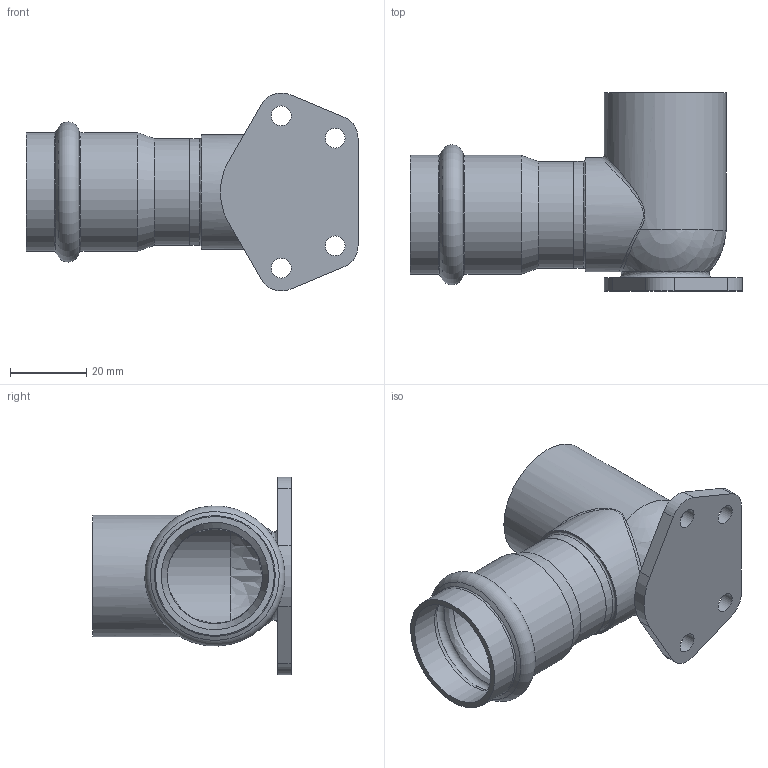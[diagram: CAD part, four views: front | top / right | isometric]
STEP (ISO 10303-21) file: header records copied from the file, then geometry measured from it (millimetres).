
FILE_DESCRIPTION((''),'2;1');
FILE_NAME('G:\Nirosan-Schmiedefeld\Technics\CAD\001 Serie 9.000\028\69472g2834h(0).stp','2019-01-09T09:20:44',('herberg'),(''),'Autodesk Inventor 2009','Autodesk Inventor 2009','');
FILE_SCHEMA(('AUTOMOTIVE_DESIGN { 1 0 10303 214 1 1 1 1 }'));
Length unit declared in the file: millimetre
Products named in the file (3): 69472g2834h(0); 69ATD2834p(0); 69HM28p(0)
Assembly tree (2 placements, depth 2):
  69472g2834h(0)
    69ATD2834p(0)
    69HM28p(0)
Bounding box: 87.14 x 52 x 51.97 mm (x, y, z)
Volume: 25737.7 mm3; surface area: 22186.2 mm2
Topology: 2 solids, 2 shells, 54 faces, 132 edges, 82 vertices
Faces by surface type: bspline 15, cylinder 15, plane 14, cone 6, sphere 2, torus 2
Full cylindrical faces by diameter (mm): 25 x1, 27.6 x1, 28 x2, 28.2 x2, 30 x1, 31.2 x2, 32 x1
Entity records: 2555 total; most frequent: CARTESIAN_POINT 1413, DIRECTION 226, ORIENTED_EDGE 176, AXIS2_PLACEMENT_3D 103, EDGE_LOOP 100, EDGE_CURVE 88, VERTEX_POINT 72, CIRCLE 59
